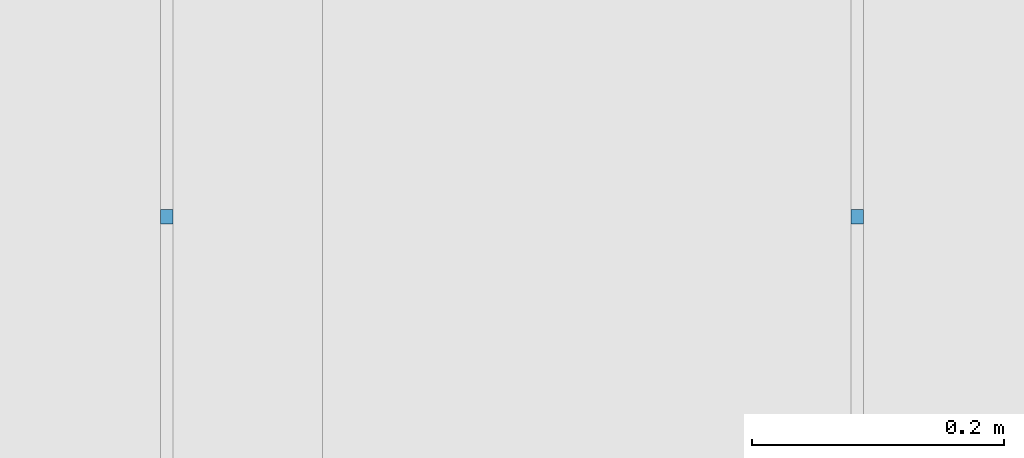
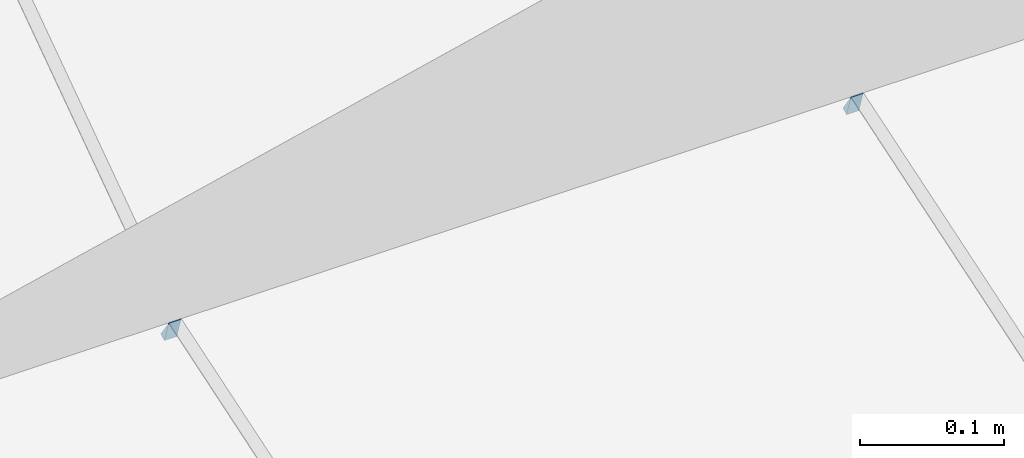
# One storey, part 346 of 583: 2 slabs.
"""IFC2X3 building model written with IfcOpenShell, lengths in metres."""

from ifc_helpers import new_model, entity, si_unit, converted_unit, derived_unit, money_unit, direction, frame, origin_with_axes, place, context, subcontext, project, spatial, faceted_brep, material, type_object, element, save


model = new_model("IFC2X3")

# Units and contexts
model_context = context("Model", 3, precision=1e-05, world=origin_with_axes(), true_north=direction((0.0, 1.0)))
body_context = subcontext(model_context, "Body", "Model", "MODEL_VIEW", scale=1.0)
ifc_project = project(units=[si_unit("LENGTHUNIT", "METRE"), si_unit("AREAUNIT", "SQUARE_METRE"), si_unit("VOLUMEUNIT", "CUBIC_METRE"), si_unit("ABSORBEDDOSEUNIT", "GRAY"), si_unit("AMOUNTOFSUBSTANCEUNIT", "MOLE"), si_unit("DOSEEQUIVALENTUNIT", "SIEVERT"), si_unit("ELECTRICCAPACITANCEUNIT", "FARAD"), si_unit("ELECTRICCHARGEUNIT", "COULOMB"), si_unit("ELECTRICCONDUCTANCEUNIT", "SIEMENS"), si_unit("ELECTRICCURRENTUNIT", "AMPERE"), si_unit("ELECTRICRESISTANCEUNIT", "OHM"), si_unit("ELECTRICVOLTAGEUNIT", "VOLT"), si_unit("ENERGYUNIT", "JOULE"), si_unit("FORCEUNIT", "NEWTON"), si_unit("FREQUENCYUNIT", "HERTZ"), si_unit("ILLUMINANCEUNIT", "LUX"), si_unit("INDUCTANCEUNIT", "HENRY"), si_unit("LUMINOUSFLUXUNIT", "LUMEN"), si_unit("LUMINOUSINTENSITYUNIT", "CANDELA"), si_unit("MAGNETICFLUXDENSITYUNIT", "TESLA"), si_unit("MAGNETICFLUXUNIT", "WEBER"), si_unit("MASSUNIT", "GRAM"), converted_unit("PLANEANGLEUNIT", "degree", entity("IfcReal", 0.0174532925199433), si_unit("PLANEANGLEUNIT", "RADIAN"), dimensions=[0, 0, 0, 0, 0, 0, 0]), si_unit("POWERUNIT", "WATT"), si_unit("PRESSUREUNIT", "PASCAL"), si_unit("RADIOACTIVITYUNIT", "BECQUEREL"), si_unit("SOLIDANGLEUNIT", "STERADIAN"), si_unit("THERMODYNAMICTEMPERATUREUNIT", "KELVIN"), si_unit("TIMEUNIT", "SECOND"), derived_unit("ACCELERATIONUNIT", [(si_unit("LENGTHUNIT", "METRE"), 1), (si_unit("TIMEUNIT", "SECOND"), -2)]), derived_unit("ANGULARVELOCITYUNIT", [(converted_unit("PLANEANGLEUNIT", "degree", entity("IfcReal", 0.0174532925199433), si_unit("PLANEANGLEUNIT", "RADIAN"), dimensions=[0, 0, 0, 0, 0, 0, 0]), 1), (si_unit("TIMEUNIT", "SECOND"), -1)]), derived_unit("CURVATUREUNIT", [(converted_unit("PLANEANGLEUNIT", "degree", entity("IfcReal", 0.0174532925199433), si_unit("PLANEANGLEUNIT", "RADIAN"), dimensions=[0, 0, 0, 0, 0, 0, 0]), 1), (si_unit("LENGTHUNIT", "METRE"), -1)]), derived_unit("DYNAMICVISCOSITYUNIT", [(si_unit("PRESSUREUNIT", "PASCAL"), 1), (si_unit("TIMEUNIT", "SECOND"), 1)]), derived_unit("HEATFLUXDENSITYUNIT", [(si_unit("POWERUNIT", "WATT"), 1), (si_unit("LENGTHUNIT", "METRE"), -2)]), derived_unit("HEATINGVALUEUNIT", [(si_unit("ENERGYUNIT", "JOULE"), 1), (si_unit("MASSUNIT", "GRAM"), -1)]), derived_unit("INTEGERCOUNTRATEUNIT", [(si_unit("TIMEUNIT", "SECOND"), -1)]), derived_unit("IONCONCENTRATIONUNIT", [(si_unit("MASSUNIT", "GRAM"), 1), (si_unit("VOLUMEUNIT", "CUBIC_METRE"), -1)]), derived_unit("ISOTHERMALMOISTURECAPACITYUNIT", [(si_unit("VOLUMEUNIT", "CUBIC_METRE"), 1), (si_unit("MASSUNIT", "GRAM"), -1)]), derived_unit("KINEMATICVISCOSITYUNIT", [(si_unit("AREAUNIT", "SQUARE_METRE"), 1), (si_unit("TIMEUNIT", "SECOND"), -1)]), derived_unit("LINEARFORCEUNIT", [(si_unit("FORCEUNIT", "NEWTON"), 1), (si_unit("LENGTHUNIT", "METRE"), -1)]), derived_unit("LINEARMOMENTUNIT", [(si_unit("FORCEUNIT", "NEWTON"), 1), (si_unit("LENGTHUNIT", "METRE"), -1)]), derived_unit("LINEARSTIFFNESSUNIT", [(si_unit("FORCEUNIT", "NEWTON"), 1), (si_unit("LENGTHUNIT", "METRE"), -1)]), derived_unit("LINEARVELOCITYUNIT", [(si_unit("LENGTHUNIT", "METRE"), 1), (si_unit("TIMEUNIT", "SECOND"), -1)]), derived_unit("LUMINOUSINTENSITYDISTRIBUTIONUNIT", [(si_unit("LUMINOUSINTENSITYUNIT", "CANDELA"), 1), (si_unit("LUMINOUSFLUXUNIT", "LUMEN"), -1)]), derived_unit("MASSDENSITYUNIT", [(si_unit("MASSUNIT", "GRAM"), 1), (si_unit("VOLUMEUNIT", "CUBIC_METRE"), -1)]), derived_unit("MASSFLOWRATEUNIT", [(si_unit("MASSUNIT", "GRAM"), 1), (si_unit("TIMEUNIT", "SECOND"), -1)]), derived_unit("MASSPERLENGTHUNIT", [(si_unit("MASSUNIT", "GRAM"), 1), (si_unit("LENGTHUNIT", "METRE"), -1)]), derived_unit("MODULUSOFELASTICITYUNIT", [(si_unit("FORCEUNIT", "NEWTON"), 1), (si_unit("AREAUNIT", "SQUARE_METRE"), -1)]), derived_unit("MODULUSOFLINEARSUBGRADEREACTIONUNIT", [(si_unit("FORCEUNIT", "NEWTON"), 1), (si_unit("LENGTHUNIT", "METRE"), -2)]), derived_unit("MODULUSOFROTATIONALSUBGRADEREACTIONUNIT", [(si_unit("FORCEUNIT", "NEWTON"), 1), (si_unit("LENGTHUNIT", "METRE"), 1)]), derived_unit("MODULUSOFSUBGRADEREACTIONUNIT", [(si_unit("FORCEUNIT", "NEWTON"), 1), (si_unit("VOLUMEUNIT", "CUBIC_METRE"), -1)]), derived_unit("MOISTUREDIFFUSIVITYUNIT", [(si_unit("VOLUMEUNIT", "CUBIC_METRE"), 1), (si_unit("TIMEUNIT", "SECOND"), -1)]), derived_unit("MOLECULARWEIGHTUNIT", [(si_unit("MASSUNIT", "GRAM"), 1), (si_unit("AMOUNTOFSUBSTANCEUNIT", "MOLE"), -1)]), derived_unit("PLANARFORCEUNIT", [(si_unit("FORCEUNIT", "NEWTON"), 1), (si_unit("LENGTHUNIT", "METRE"), -2)]), derived_unit("ROTATIONALFREQUENCYUNIT", [(si_unit("TIMEUNIT", "SECOND"), -1)]), derived_unit("ROTATIONALMASSUNIT", [(si_unit("MASSUNIT", "GRAM"), 1), (si_unit("LENGTHUNIT", "METRE"), 2)]), derived_unit("ROTATIONALSTIFFNESSUNIT", [(si_unit("FORCEUNIT", "NEWTON"), 1), (si_unit("LENGTHUNIT", "METRE"), 1), (converted_unit("PLANEANGLEUNIT", "degree", entity("IfcReal", 0.0174532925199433), si_unit("PLANEANGLEUNIT", "RADIAN"), dimensions=[0, 0, 0, 0, 0, 0, 0]), -1)]), derived_unit("SECTIONAREAINTEGRALUNIT", [(si_unit("LENGTHUNIT", "METRE"), 5)]), derived_unit("SECTIONMODULUSUNIT", [(si_unit("LENGTHUNIT", "METRE"), 3)]), derived_unit("SHEARMODULUSUNIT", [(si_unit("FORCEUNIT", "NEWTON"), 1), (si_unit("AREAUNIT", "SQUARE_METRE"), -1)]), derived_unit("SOUNDPOWERUNIT", [(si_unit("ENERGYUNIT", "JOULE"), 1), (si_unit("TIMEUNIT", "SECOND"), -1)]), derived_unit("SPECIFICHEATCAPACITYUNIT", [(si_unit("FORCEUNIT", "NEWTON"), 1), (si_unit("MASSUNIT", "GRAM"), -1), (si_unit("THERMODYNAMICTEMPERATUREUNIT", "KELVIN"), -1)]), derived_unit("TEMPERATUREGRADIENTUNIT", [(si_unit("THERMODYNAMICTEMPERATUREUNIT", "KELVIN"), 1), (si_unit("LENGTHUNIT", "METRE"), -1)]), derived_unit("THERMALADMITTANCEUNIT", [(si_unit("POWERUNIT", "WATT"), 1), (si_unit("AREAUNIT", "SQUARE_METRE"), -1), (si_unit("THERMODYNAMICTEMPERATUREUNIT", "KELVIN"), -1)]), derived_unit("THERMALCONDUCTANCEUNIT", [(si_unit("POWERUNIT", "WATT"), 1), (si_unit("LENGTHUNIT", "METRE"), -1), (si_unit("THERMODYNAMICTEMPERATUREUNIT", "KELVIN"), -1)]), derived_unit("THERMALEXPANSIONCOEFFICIENTUNIT", [(si_unit("THERMODYNAMICTEMPERATUREUNIT", "KELVIN"), -1)]), derived_unit("THERMALRESISTANCEUNIT", [(si_unit("AREAUNIT", "SQUARE_METRE"), 1), (si_unit("POWERUNIT", "WATT"), -1)]), derived_unit("THERMALTRANSMITTANCEUNIT", [(si_unit("POWERUNIT", "WATT"), 1), (si_unit("AREAUNIT", "SQUARE_METRE"), -1), (si_unit("THERMODYNAMICTEMPERATUREUNIT", "KELVIN"), -1)]), derived_unit("TORQUEUNIT", [(si_unit("FORCEUNIT", "NEWTON"), 1), (si_unit("LENGTHUNIT", "METRE"), 1)]), derived_unit("VAPORPERMEABILITYUNIT", [(si_unit("MASSUNIT", "GRAM"), 1), (si_unit("TIMEUNIT", "SECOND"), -1)]), derived_unit("VOLUMETRICFLOWRATEUNIT", [(si_unit("VOLUMEUNIT", "CUBIC_METRE"), 1), (si_unit("TIMEUNIT", "SECOND"), -1)]), derived_unit("WARPINGCONSTANTUNIT", [(si_unit("LENGTHUNIT", "METRE"), 6)]), derived_unit("WARPINGMOMENTUNIT", [(si_unit("FORCEUNIT", "NEWTON"), 1), (si_unit("LENGTHUNIT", "METRE"), 2)]), money_unit("GBP")], contexts=[model_context])

# Site, building, storey
site_placement = place(None, origin_with_axes())
site = spatial("IfcSite", under=ifc_project, at=site_placement, Name="Site", CompositionType="ELEMENT")
building_placement = place(site_placement, origin_with_axes())
building = spatial("IfcBuilding", under=site, at=building_placement, Name="Building01", CompositionType="ELEMENT")
storey_placement = place(building_placement, frame((0.0, 0.0, 20.78), z_axis=(0.0, 0.0, 1.0), x_axis=(1.0, 0.0, 0.0)))
storey = spatial("IfcBuildingStorey", under=building, at=storey_placement, Name="RL", CompositionType="ELEMENT", Elevation=20.78)

# Slabs
ifc_material = material(Name="A_BSUK_Roofs")
slab_type = type_object("IfcSlabType", Name="A-FloorsSlabs A_BSUK_Slabs", PredefinedType="FLOOR")
for number, where, z_axis, x_axis, name in (
    (1, (4.718975, 18.791933, -19.462123), (0.0, 1.0, 0.0), (-1.0, 0.0, 0.0), "A-FloorsSlabs A_BSUK_Slabs"),
    (2, (4.171475, 18.791933, -19.462123), (0.0, 1.0, 0.0), (-1.0, 0.0, 0.0), "A-FloorsSlabs A_BSUK_Slabs"),
):
    element("IfcSlab", number, at=place(storey_placement, frame(where, z_axis=z_axis, x_axis=x_axis)), inside=storey, type_object=slab_type, material=ifc_material, Name=name, ObjectType="A-FloorsSlabs A_BSUK_Slabs", context=body_context, shape_type="Brep", body=[
        faceted_brep([(0.0, 0.0, 0.0), (-0.01, 0.0, 0.0), (-0.01, -0.002638, -0.005291), (0.0, -0.002638, -0.005291), (-0.01, 0.016383, -0.011472), (0.0, 0.016383, -0.011472)], [[[0, 1, 2, 3]], [[3, 2, 4, 5]], [[5, 4, 1, 0]], [[1, 4, 2]], [[3, 5, 0]]]),
    ])

save(model, "model.ifc")
